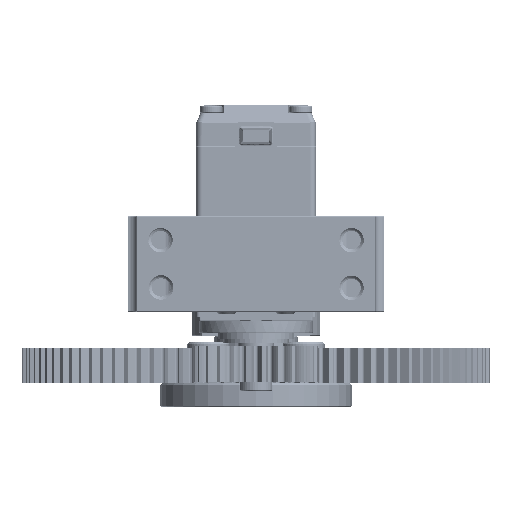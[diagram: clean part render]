
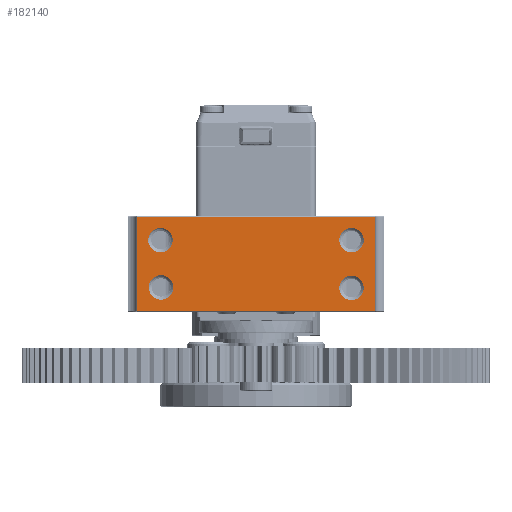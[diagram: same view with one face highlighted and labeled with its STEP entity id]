
A CAD part, left-side view. The second image highlights one B-rep face of the part: STEP entity #182140.
In plain terms, the highlighted planar face has unit normal (-1, 0, 0).
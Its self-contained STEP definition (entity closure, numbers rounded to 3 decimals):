
#4258 = CARTESIAN_POINT ( 'NONE',  ( -46.25, -16., -4. ) ) ;
#19591 = CARTESIAN_POINT ( 'NONE',  ( -46.25, -19.875, -15.875 ) ) ;
#23284 = ORIENTED_EDGE ( 'NONE', *, *, #288183, .F. ) ;
#37050 = CARTESIAN_POINT ( 'NONE',  ( -46.25, 0., 16.151 ) ) ;
#47822 = CARTESIAN_POINT ( 'NONE',  ( -46.25, -18.05, -12. ) ) ;
#54139 = EDGE_LOOP ( 'NONE', ( #292865, #121387 ) ) ;
#64828 = DIRECTION ( 'NONE',  ( -1., 0., 0. ) ) ;
#67604 = EDGE_CURVE ( 'NONE', #332412, #685983, #152627, .T. ) ;
#70362 = VERTEX_POINT ( 'NONE', #218125 ) ;
#79458 = CARTESIAN_POINT ( 'NONE',  ( -46.25, -16., -12. ) ) ;
#82444 = ORIENTED_EDGE ( 'NONE', *, *, #410705, .T. ) ;
#82914 = DIRECTION ( 'NONE',  ( 0., 1., 0. ) ) ;
#84534 = AXIS2_PLACEMENT_3D ( 'NONE', #330009, #607414, #809716 ) ;
#87656 = CARTESIAN_POINT ( 'NONE',  ( -46.25, 19.875, 16.151 ) ) ;
#113522 = CARTESIAN_POINT ( 'NONE',  ( -46.25, 17.961, -11.91 ) ) ;
#121387 = ORIENTED_EDGE ( 'NONE', *, *, #175954, .F. ) ;
#123172 = EDGE_CURVE ( 'NONE', #171650, #70362, #361363, .T. ) ;
#124747 = CARTESIAN_POINT ( 'NONE',  ( -46.25, 16., -4. ) ) ;
#134466 = AXIS2_PLACEMENT_3D ( 'NONE', #636159, #841340, #431027 ) ;
#140008 = DIRECTION ( 'NONE',  ( 0., 1., 0. ) ) ;
#145700 = VERTEX_POINT ( 'NONE', #214279 ) ;
#147653 = CARTESIAN_POINT ( 'NONE',  ( -46.25, -19.875, -0.125 ) ) ;
#152564 = EDGE_LOOP ( 'NONE', ( #863616, #378865, #82444, #449412 ) ) ;
#152627 = LINE ( 'NONE', #265883, #390652 ) ;
#157929 = EDGE_LOOP ( 'NONE', ( #320984, #349100 ) ) ;
#171650 = VERTEX_POINT ( 'NONE', #47822 ) ;
#175954 = EDGE_CURVE ( 'NONE', #483035, #814790, #483189, .T. ) ;
#182140 = ADVANCED_FACE ( 'NONE', ( #329204, #599141, #545527, #750763, #362079 ), #383798, .F. ) ;
#202094 = CIRCLE ( 'NONE', #350890, 2.05 ) ;
#207341 = AXIS2_PLACEMENT_3D ( 'NONE', #37050, #377833, #579923 ) ;
#209798 = VERTEX_POINT ( 'NONE', #894642 ) ;
#210059 = ORIENTED_EDGE ( 'NONE', *, *, #873316, .F. ) ;
#214279 = CARTESIAN_POINT ( 'NONE',  ( -46.25, 19.875, -15.875 ) ) ;
#218125 = CARTESIAN_POINT ( 'NONE',  ( -46.25, -13.95, -12. ) ) ;
#218553 = DIRECTION ( 'NONE',  ( -1., 0., 0. ) ) ;
#219262 = CARTESIAN_POINT ( 'NONE',  ( -46.25, 13.95, -4. ) ) ;
#225448 = VERTEX_POINT ( 'NONE', #525782 ) ;
#233970 = VECTOR ( 'NONE', #704021, 1000. ) ;
#257675 = AXIS2_PLACEMENT_3D ( 'NONE', #640686, #218553, #82914 ) ;
#265883 = CARTESIAN_POINT ( 'NONE',  ( -46.25, -19.875, 16.151 ) ) ;
#281071 = DIRECTION ( 'NONE',  ( 0., 1., 0. ) ) ;
#288183 = EDGE_CURVE ( 'NONE', #225448, #541475, #757014, .T. ) ;
#289519 = DIRECTION ( 'NONE',  ( 0., 0., -1. ) ) ;
#292865 = ORIENTED_EDGE ( 'NONE', *, *, #488825, .F. ) ;
#320984 = ORIENTED_EDGE ( 'NONE', *, *, #347457, .F. ) ;
#323375 = DIRECTION ( 'NONE',  ( 0., 0., 1. ) ) ;
#329204 = FACE_OUTER_BOUND ( 'NONE', #152564, .T. ) ;
#330009 = CARTESIAN_POINT ( 'NONE',  ( -46.25, -16., -4. ) ) ;
#332412 = VERTEX_POINT ( 'NONE', #19591 ) ;
#346901 = VECTOR ( 'NONE', #281071, 1000. ) ;
#347457 = EDGE_CURVE ( 'NONE', #471006, #209798, #383464, .T. ) ;
#349100 = ORIENTED_EDGE ( 'NONE', *, *, #469144, .F. ) ;
#350890 = AXIS2_PLACEMENT_3D ( 'NONE', #582264, #787519, #585276 ) ;
#361363 = CIRCLE ( 'NONE', #599774, 2.05 ) ;
#362079 = FACE_BOUND ( 'NONE', #54139, .T. ) ;
#376699 = CARTESIAN_POINT ( 'NONE',  ( -46.25, 19.875, -0.125 ) ) ;
#377833 = DIRECTION ( 'NONE',  ( 1., 0., 0. ) ) ;
#378865 = ORIENTED_EDGE ( 'NONE', *, *, #544650, .T. ) ;
#383013 = CARTESIAN_POINT ( 'NONE',  ( -46.25, -13.95, -4. ) ) ;
#383464 = CIRCLE ( 'NONE', #84534, 2.05 ) ;
#383798 = PLANE ( 'NONE',  #207341 ) ;
#390652 = VECTOR ( 'NONE', #323375, 1000. ) ;
#410705 = EDGE_CURVE ( 'NONE', #145700, #332412, #524812, .T. ) ;
#431027 = DIRECTION ( 'NONE',  ( 0., -1., 0. ) ) ;
#431873 = AXIS2_PLACEMENT_3D ( 'NONE', #600560, #881095, #742351 ) ;
#443809 = LINE ( 'NONE', #558619, #346901 ) ;
#449412 = ORIENTED_EDGE ( 'NONE', *, *, #67604, .T. ) ;
#450751 = CARTESIAN_POINT ( 'NONE',  ( -46.25, 13.861, -11.91 ) ) ;
#465619 = DIRECTION ( 'NONE',  ( -1., 0., 0. ) ) ;
#468377 = ORIENTED_EDGE ( 'NONE', *, *, #123172, .F. ) ;
#469144 = EDGE_CURVE ( 'NONE', #209798, #471006, #598096, .T. ) ;
#471006 = VERTEX_POINT ( 'NONE', #383013 ) ;
#471554 = CIRCLE ( 'NONE', #257675, 2.05 ) ;
#483035 = VERTEX_POINT ( 'NONE', #450751 ) ;
#483189 = CIRCLE ( 'NONE', #431873, 2.05 ) ;
#488825 = EDGE_CURVE ( 'NONE', #814790, #483035, #471554, .T. ) ;
#504996 = LINE ( 'NONE', #87656, #839921 ) ;
#524812 = LINE ( 'NONE', #706995, #233970 ) ;
#525782 = CARTESIAN_POINT ( 'NONE',  ( -46.25, 18.05, -4. ) ) ;
#540858 = DIRECTION ( 'NONE',  ( 0., -1., 0. ) ) ;
#541475 = VERTEX_POINT ( 'NONE', #219262 ) ;
#544650 = EDGE_CURVE ( 'NONE', #604458, #145700, #504996, .T. ) ;
#545527 = FACE_BOUND ( 'NONE', #157929, .T. ) ;
#558619 = CARTESIAN_POINT ( 'NONE',  ( -46.25, 20., -0.125 ) ) ;
#579923 = DIRECTION ( 'NONE',  ( 0., -1., 0. ) ) ;
#580217 = EDGE_LOOP ( 'NONE', ( #210059, #23284 ) ) ;
#582264 = CARTESIAN_POINT ( 'NONE',  ( -46.25, -16., -12. ) ) ;
#585276 = DIRECTION ( 'NONE',  ( 0., 1., 0. ) ) ;
#598096 = CIRCLE ( 'NONE', #663174, 2.05 ) ;
#599141 = FACE_BOUND ( 'NONE', #580217, .T. ) ;
#599774 = AXIS2_PLACEMENT_3D ( 'NONE', #79458, #860563, #649454 ) ;
#600560 = CARTESIAN_POINT ( 'NONE',  ( -46.25, 15.911, -11.91 ) ) ;
#603352 = AXIS2_PLACEMENT_3D ( 'NONE', #124747, #465619, #540858 ) ;
#604458 = VERTEX_POINT ( 'NONE', #376699 ) ;
#607414 = DIRECTION ( 'NONE',  ( -1., 0., 0. ) ) ;
#636159 = CARTESIAN_POINT ( 'NONE',  ( -46.25, 16., -4. ) ) ;
#640686 = CARTESIAN_POINT ( 'NONE',  ( -46.25, 15.911, -11.91 ) ) ;
#649454 = DIRECTION ( 'NONE',  ( 0., 1., 0. ) ) ;
#663174 = AXIS2_PLACEMENT_3D ( 'NONE', #4258, #64828, #140008 ) ;
#685983 = VERTEX_POINT ( 'NONE', #147653 ) ;
#704021 = DIRECTION ( 'NONE',  ( 0., -1., 0. ) ) ;
#706995 = CARTESIAN_POINT ( 'NONE',  ( -46.25, -20., -15.875 ) ) ;
#742351 = DIRECTION ( 'NONE',  ( 0., 1., 0. ) ) ;
#750763 = FACE_BOUND ( 'NONE', #840131, .T. ) ;
#757014 = CIRCLE ( 'NONE', #603352, 2.05 ) ;
#787519 = DIRECTION ( 'NONE',  ( -1., 0., 0. ) ) ;
#799659 = CIRCLE ( 'NONE', #134466, 2.05 ) ;
#806073 = EDGE_CURVE ( 'NONE', #70362, #171650, #202094, .T. ) ;
#809716 = DIRECTION ( 'NONE',  ( 0., 1., 0. ) ) ;
#814790 = VERTEX_POINT ( 'NONE', #113522 ) ;
#820516 = ORIENTED_EDGE ( 'NONE', *, *, #806073, .F. ) ;
#839921 = VECTOR ( 'NONE', #289519, 1000. ) ;
#840131 = EDGE_LOOP ( 'NONE', ( #820516, #468377 ) ) ;
#841340 = DIRECTION ( 'NONE',  ( -1., 0., 0. ) ) ;
#860563 = DIRECTION ( 'NONE',  ( -1., 0., 0. ) ) ;
#863616 = ORIENTED_EDGE ( 'NONE', *, *, #870515, .T. ) ;
#870515 = EDGE_CURVE ( 'NONE', #685983, #604458, #443809, .T. ) ;
#873316 = EDGE_CURVE ( 'NONE', #541475, #225448, #799659, .T. ) ;
#881095 = DIRECTION ( 'NONE',  ( -1., 0., 0. ) ) ;
#894642 = CARTESIAN_POINT ( 'NONE',  ( -46.25, -18.05, -4. ) ) ;
